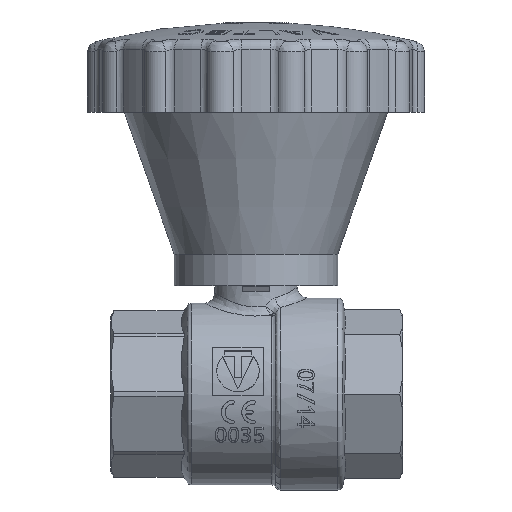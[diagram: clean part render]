
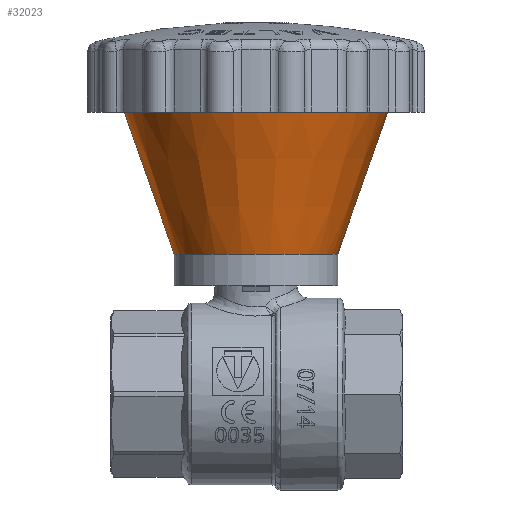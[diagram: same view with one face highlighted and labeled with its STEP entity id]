
A CAD part, front view. The second image highlights one B-rep face of the part: STEP entity #32023.
In plain terms, the highlighted conical face has half-angle 19.385 degrees and reference radius 15.5 mm.
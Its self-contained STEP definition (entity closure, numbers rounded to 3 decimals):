
#31954=CARTESIAN_POINT('',(12.25,-0.,26.524));
#31955=VERTEX_POINT('',#31954);
#31962=CARTESIAN_POINT('',(43.25,0.,26.524));
#31963=VERTEX_POINT('',#31962);
#31964=CARTESIAN_POINT('',(27.75,0.,26.524));
#31965=DIRECTION('',(0.,0.,-1.));
#31966=DIRECTION('',(-1.,0.,0.));
#31967=AXIS2_PLACEMENT_3D('',#31964,#31965,#31966);
#31968=CIRCLE('',#31967,15.5);
#31969=EDGE_CURVE('',#31955,#31963,#31968,.T.);
#31971=CARTESIAN_POINT('',(27.75,0.,26.524));
#31972=DIRECTION('',(0.,0.,-1.));
#31973=DIRECTION('',(-1.,0.,0.));
#31974=AXIS2_PLACEMENT_3D('',#31971,#31972,#31973);
#31975=CIRCLE('',#31974,15.5);
#31976=EDGE_CURVE('',#31963,#31955,#31975,.T.);
#31989=CARTESIAN_POINT('',(27.75,0.,26.524));
#31990=DIRECTION('',(0.,0.,1.));
#31991=DIRECTION('',(1.,0.,-0.));
#31992=AXIS2_PLACEMENT_3D('',#31989,#31990,#31991);
#31993=CONICAL_SURFACE('',#31992,15.5,19.385);
#31994=CARTESIAN_POINT('',(52.75,0.,53.524));
#31995=VERTEX_POINT('',#31994);
#31996=CARTESIAN_POINT('',(52.75,0.,53.524));
#31997=DIRECTION('',(-0.332,-0.,-0.943));
#31998=VECTOR('',#31997,28.623);
#31999=LINE('',#31996,#31998);
#32000=EDGE_CURVE('',#31995,#31963,#31999,.T.);
#32001=ORIENTED_EDGE('',*,*,#32000,.T.);
#32002=ORIENTED_EDGE('',*,*,#31969,.F.);
#32003=ORIENTED_EDGE('',*,*,#31976,.F.);
#32004=ORIENTED_EDGE('',*,*,#32000,.F.);
#32005=CARTESIAN_POINT('',(2.75,-0.,53.524));
#32006=VERTEX_POINT('',#32005);
#32007=CARTESIAN_POINT('',(27.75,0.,53.524));
#32008=DIRECTION('',(0.,0.,-1.));
#32009=DIRECTION('',(-1.,0.,0.));
#32010=AXIS2_PLACEMENT_3D('',#32007,#32008,#32009);
#32011=CIRCLE('',#32010,25.);
#32012=EDGE_CURVE('',#31995,#32006,#32011,.T.);
#32013=ORIENTED_EDGE('',*,*,#32012,.T.);
#32014=CARTESIAN_POINT('',(27.75,0.,53.524));
#32015=DIRECTION('',(0.,0.,-1.));
#32016=DIRECTION('',(-1.,0.,0.));
#32017=AXIS2_PLACEMENT_3D('',#32014,#32015,#32016);
#32018=CIRCLE('',#32017,25.);
#32019=EDGE_CURVE('',#32006,#31995,#32018,.T.);
#32020=ORIENTED_EDGE('',*,*,#32019,.T.);
#32021=EDGE_LOOP('',(#32001,#32002,#32003,#32004,#32013,#32020));
#32022=FACE_BOUND('',#32021,.T.);
#32023=ADVANCED_FACE('',(#32022),#31993,.T.);
